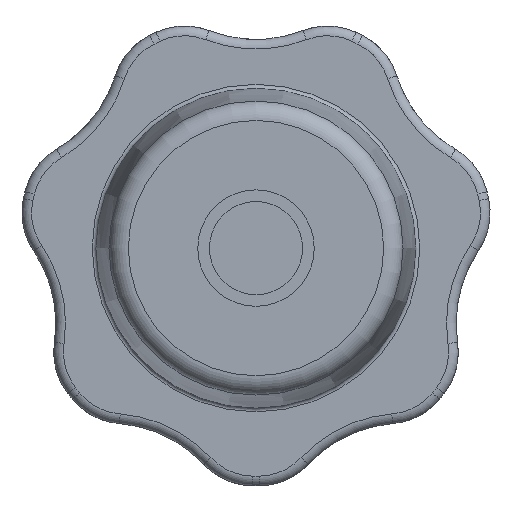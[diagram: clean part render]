
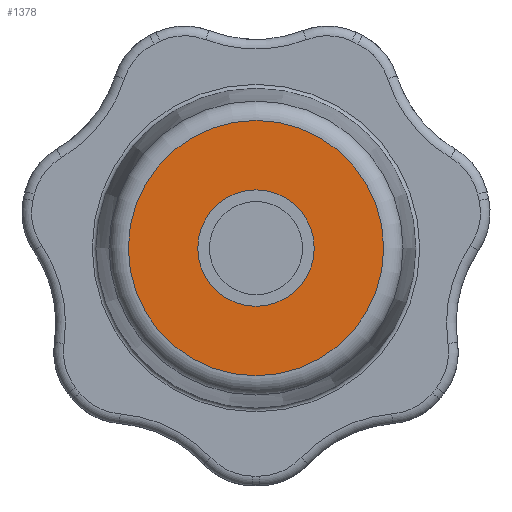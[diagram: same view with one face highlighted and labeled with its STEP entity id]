
A CAD part, front view. The second image highlights one B-rep face of the part: STEP entity #1378.
In plain terms, the highlighted planar face has unit normal (0, -1, 0).
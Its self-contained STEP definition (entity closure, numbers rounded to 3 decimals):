
#177=PLANE('',#1587);
#185=FACE_BOUND('',#379,.T.);
#277=FACE_OUTER_BOUND('',#378,.T.);
#378=EDGE_LOOP('',(#1247));
#379=EDGE_LOOP('',(#1248));
#385=CIRCLE('',#1389,3.);
#516=CIRCLE('',#1586,6.576);
#520=VERTEX_POINT('',#2044);
#638=VERTEX_POINT('',#3053);
#642=EDGE_CURVE('',#520,#520,#385,.T.);
#843=EDGE_CURVE('',#638,#638,#516,.T.);
#1247=ORIENTED_EDGE('',*,*,#843,.F.);
#1248=ORIENTED_EDGE('',*,*,#642,.T.);
#1378=ADVANCED_FACE('',(#277,#185),#177,.T.);
#1389=AXIS2_PLACEMENT_3D('',#2045,#1604,#1605);
#1586=AXIS2_PLACEMENT_3D('',#3054,#2025,#2026);
#1587=AXIS2_PLACEMENT_3D('',#3055,#2027,#2028);
#1604=DIRECTION('center_axis',(0.,1.,0.));
#1605=DIRECTION('ref_axis',(-1.,0.,0.));
#2025=DIRECTION('center_axis',(0.,1.,0.));
#2026=DIRECTION('ref_axis',(1.,0.,0.));
#2027=DIRECTION('center_axis',(0.,-1.,0.));
#2028=DIRECTION('ref_axis',(0.,0.,-1.));
#2044=CARTESIAN_POINT('',(3.,-9.5,0.));
#2045=CARTESIAN_POINT('Origin',(0.,-9.5,0.));
#3053=CARTESIAN_POINT('',(-6.576,-9.5,0.));
#3054=CARTESIAN_POINT('Origin',(0.,-9.5,0.));
#3055=CARTESIAN_POINT('Origin',(-3.75,-9.5,0.));
